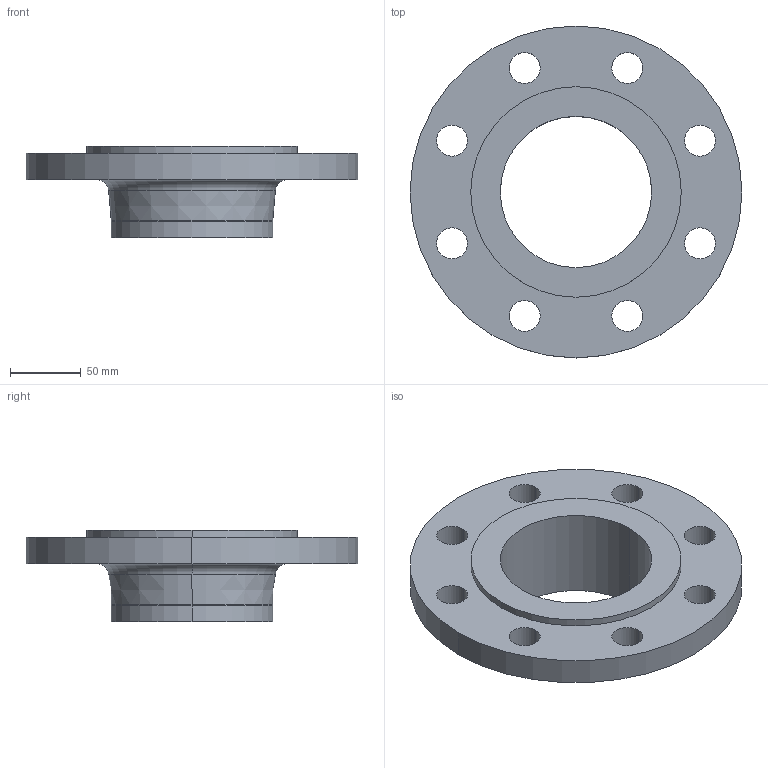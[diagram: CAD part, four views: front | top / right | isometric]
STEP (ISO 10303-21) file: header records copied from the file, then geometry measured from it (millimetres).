
FILE_DESCRIPTION (( 'STEP AP214' ), '1' );
FILE_NAME ('PN40 DN100 Type 11 - Type E Face.STEP', '2019-01-02T00:23:17', ( '' ), ( '' ), 'SwSTEP 2.0', 'SolidWorks 2019', '' );
FILE_SCHEMA (( 'AUTOMOTIVE_DESIGN' ));
Length unit declared in the file: millimetre
Products named in the file (1): PN40 DN100 Type 11 - Type E Face
Bounding box: 235 x 235 x 65 mm (x, y, z)
Volume: 706315.9 mm3; surface area: 124437.6 mm2
Topology: 1 solids, 1 shells, 34 faces, 84 edges, 54 vertices
Faces by surface type: cylinder 24, torus 4, plane 4, cone 2
Entity records: 1108 total; most frequent: DIRECTION 212, CARTESIAN_POINT 173, ORIENTED_EDGE 168, AXIS2_PLACEMENT_3D 93, EDGE_CURVE 84, CIRCLE 58, VERTEX_POINT 54, EDGE_LOOP 54
